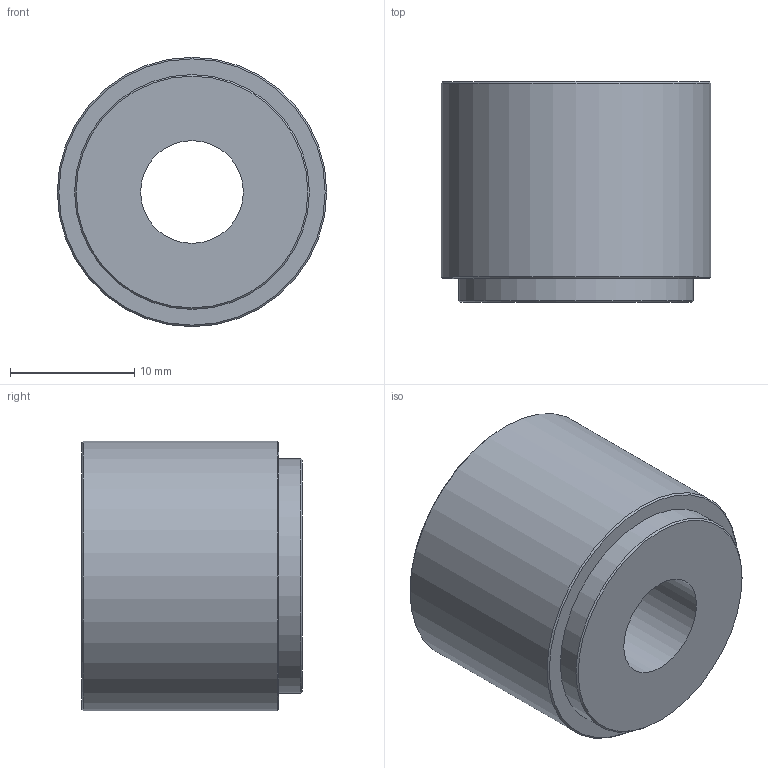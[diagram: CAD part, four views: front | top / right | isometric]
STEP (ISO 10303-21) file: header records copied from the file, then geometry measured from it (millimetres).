
FILE_DESCRIPTION(/* description */ (''),/* implementation_level */ '2;1');
FILE_NAME(/* name */ 'C:\Users\JN\Documents\CAD Drawings\The Sensor Connection\3D\BNG\BNG-18-NPT-MS.stp',/* time_stamp */ '2017-08-01T14:13:15-04:00',/* author */ ('JN'),/* organization */ (''),/* preprocessor_version */ 'ST-DEVELOPER v16.13',/* originating_system */ 'Autodesk Inventor LT',/* authorisation */ '');
FILE_SCHEMA (('AUTOMOTIVE_DESIGN { 1 0 10303 214 3 1 1 }'));
Length unit declared in the file: inch
Products named in the file (1): BNG-18-NPT-MS
Bounding box: 21.72 x 17.78 x 21.72 mm (x, y, z)
Volume: 5456.2 mm3; surface area: 2273.6 mm2
Topology: 1 solids, 1 shells, 10 faces, 18 edges, 11 vertices
Faces by surface type: cone 4, cylinder 3, plane 3
Full cylindrical faces by diameter (mm): 8.28 x1, 18.923 x1, 21.717 x1
Entity records: 249 total; most frequent: DIRECTION 42, CARTESIAN_POINT 31, AXIS2_PLACEMENT_3D 21, EDGE_LOOP 20, ORIENTED_EDGE 20, FACE_BOUND 10, FACE_OUTER_BOUND 10, CIRCLE 10
